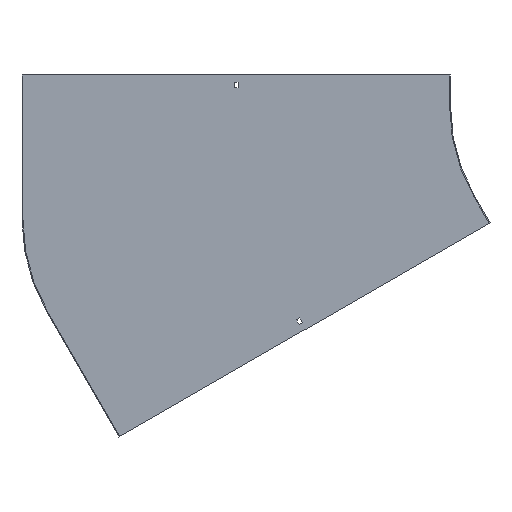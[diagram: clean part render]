
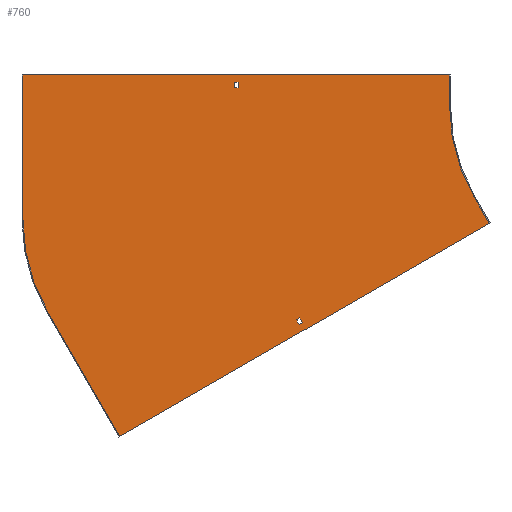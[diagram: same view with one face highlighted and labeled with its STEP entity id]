
A CAD part, front view. The second image highlights one B-rep face of the part: STEP entity #760.
In plain terms, the highlighted planar face has unit normal (0, -1, 0).
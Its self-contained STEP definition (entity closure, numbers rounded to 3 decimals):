
#29 = CARTESIAN_POINT ( 'NONE',  ( -653.25, -1.5, 38. ) ) ;
#33 = ORIENTED_EDGE ( 'NONE', *, *, #420, .T. ) ;
#45 = VECTOR ( 'NONE', #755, 1000. ) ;
#49 = DIRECTION ( 'NONE',  ( 0.866, 0., 0.5 ) ) ;
#51 = EDGE_CURVE ( 'NONE', #539, #389, #609, .T. ) ;
#61 = ORIENTED_EDGE ( 'NONE', *, *, #236, .F. ) ;
#65 = ORIENTED_EDGE ( 'NONE', *, *, #519, .F. ) ;
#80 = DIRECTION ( 'NONE',  ( 0.5, 0., -0.866 ) ) ;
#86 = CARTESIAN_POINT ( 'NONE',  ( 0., -1.5, 38. ) ) ;
#91 = CARTESIAN_POINT ( 'NONE',  ( -300., -1.5, 0. ) ) ;
#93 = ORIENTED_EDGE ( 'NONE', *, *, #217, .T. ) ;
#97 = EDGE_LOOP ( 'NONE', ( #683, #129, #556, #862, #525, #470, #623, #737 ) ) ;
#99 = DIRECTION ( 'NONE',  ( 0., 0., -1. ) ) ;
#109 = EDGE_CURVE ( 'NONE', #857, #410, #488, .T. ) ;
#117 = AXIS2_PLACEMENT_3D ( 'NONE', #490, #617, #290 ) ;
#129 = ORIENTED_EDGE ( 'NONE', *, *, #557, .F. ) ;
#132 = EDGE_CURVE ( 'NONE', #718, #288, #837, .T. ) ;
#143 = VERTEX_POINT ( 'NONE', #237 ) ;
#160 = CARTESIAN_POINT ( 'NONE',  ( -233.509, -1.5, -192.551 ) ) ;
#163 = EDGE_CURVE ( 'NONE', #663, #497, #469, .T. ) ;
#176 = DIRECTION ( 'NONE',  ( 0., 0., 1. ) ) ;
#202 = CARTESIAN_POINT ( 'NONE',  ( -560.102, -1.5, -323.375 ) ) ;
#203 = VECTOR ( 'NONE', #572, 1000. ) ;
#211 = VERTEX_POINT ( 'NONE', #309 ) ;
#217 = EDGE_CURVE ( 'NONE', #450, #586, #782, .T. ) ;
#225 = DIRECTION ( 'NONE',  ( 0.5, 0., -0.866 ) ) ;
#236 = EDGE_CURVE ( 'NONE', #143, #211, #633, .T. ) ;
#237 = CARTESIAN_POINT ( 'NONE',  ( -546.731, -1.5, -359.534 ) ) ;
#241 = EDGE_CURVE ( 'NONE', #636, #285, #626, .T. ) ;
#242 = CARTESIAN_POINT ( 'NONE',  ( 0., -1.5, 29. ) ) ;
#252 = CARTESIAN_POINT ( 'NONE',  ( -653.25, -1.5, 0. ) ) ;
#265 = VECTOR ( 'NONE', #625, 1000. ) ;
#283 = VECTOR ( 'NONE', #804, 1000. ) ;
#285 = VERTEX_POINT ( 'NONE', #641 ) ;
#288 = VERTEX_POINT ( 'NONE', #785 ) ;
#290 = DIRECTION ( 'NONE',  ( 0., 0., -1. ) ) ;
#295 = LINE ( 'NONE', #798, #422 ) ;
#296 = DIRECTION ( 'NONE',  ( 0., -1., 0. ) ) ;
#301 = CARTESIAN_POINT ( 'NONE',  ( -646.75, -1.5, 0. ) ) ;
#306 = CARTESIAN_POINT ( 'NONE',  ( -234.808, -1.5, -193.301 ) ) ;
#309 = CARTESIAN_POINT ( 'NONE',  ( -541.102, -1.5, -356.284 ) ) ;
#312 = DIRECTION ( 'NONE',  ( 0., 0., -1. ) ) ;
#327 = VECTOR ( 'NONE', #656, 1000. ) ;
#328 = LINE ( 'NONE', #86, #457 ) ;
#338 = CARTESIAN_POINT ( 'NONE',  ( -551.231, -1.5, -351.74 ) ) ;
#352 = LINE ( 'NONE', #202, #283 ) ;
#360 = DIRECTION ( 'NONE',  ( 1., 0., 0. ) ) ;
#361 = LINE ( 'NONE', #160, #45 ) ;
#362 = VERTEX_POINT ( 'NONE', #463 ) ;
#364 = VECTOR ( 'NONE', #743, 1000. ) ;
#368 = FACE_BOUND ( 'NONE', #687, .T. ) ;
#372 = ORIENTED_EDGE ( 'NONE', *, *, #132, .T. ) ;
#382 = DIRECTION ( 'NONE',  ( 0., 0., -1. ) ) ;
#389 = VERTEX_POINT ( 'NONE', #338 ) ;
#405 = ORIENTED_EDGE ( 'NONE', *, *, #608, .T. ) ;
#406 = CARTESIAN_POINT ( 'NONE',  ( -1000., -1.5, -187.564 ) ) ;
#407 = ORIENTED_EDGE ( 'NONE', *, *, #787, .F. ) ;
#410 = VERTEX_POINT ( 'NONE', #732 ) ;
#417 = CARTESIAN_POINT ( 'NONE',  ( -565.731, -1.5, -326.625 ) ) ;
#419 = DIRECTION ( 'NONE',  ( 0., 0., -1. ) ) ;
#420 = EDGE_CURVE ( 'NONE', #586, #718, #328, .T. ) ;
#422 = VECTOR ( 'NONE', #225, 1000. ) ;
#433 = CARTESIAN_POINT ( 'NONE',  ( -646.75, -1.5, 38. ) ) ;
#443 = CARTESIAN_POINT ( 'NONE',  ( 0., -1.5, 0. ) ) ;
#450 = VERTEX_POINT ( 'NONE', #679 ) ;
#457 = VECTOR ( 'NONE', #360, 1000. ) ;
#463 = CARTESIAN_POINT ( 'NONE',  ( -841.025, -1.5, -543.301 ) ) ;
#469 = CIRCLE ( 'NONE', #579, 300. ) ;
#470 = ORIENTED_EDGE ( 'NONE', *, *, #790, .F. ) ;
#485 = LINE ( 'NONE', #742, #855 ) ;
#486 = CARTESIAN_POINT ( 'NONE',  ( -259.808, -1.5, -150. ) ) ;
#488 = CIRCLE ( 'NONE', #117, 300. ) ;
#490 = CARTESIAN_POINT ( 'NONE',  ( -700., -1.5, -187.564 ) ) ;
#496 = CARTESIAN_POINT ( 'NONE',  ( -841.025, -1.5, -543.301 ) ) ;
#497 = VERTEX_POINT ( 'NONE', #486 ) ;
#507 = DIRECTION ( 'NONE',  ( -1., 0., 0. ) ) ;
#510 = PLANE ( 'NONE',  #584 ) ;
#512 = CARTESIAN_POINT ( 'NONE',  ( 19., -1.5, -32.909 ) ) ;
#519 = EDGE_CURVE ( 'NONE', #389, #143, #540, .T. ) ;
#525 = ORIENTED_EDGE ( 'NONE', *, *, #670, .F. ) ;
#528 = EDGE_LOOP ( 'NONE', ( #33, #372, #405, #93 ) ) ;
#539 = VERTEX_POINT ( 'NONE', #605 ) ;
#540 = LINE ( 'NONE', #417, #714 ) ;
#556 = ORIENTED_EDGE ( 'NONE', *, *, #109, .F. ) ;
#557 = EDGE_CURVE ( 'NONE', #410, #636, #724, .T. ) ;
#565 = CARTESIAN_POINT ( 'NONE',  ( 0., -1.5, 0. ) ) ;
#572 = DIRECTION ( 'NONE',  ( 1., 0., 0. ) ) ;
#573 = EDGE_CURVE ( 'NONE', #362, #857, #618, .T. ) ;
#579 = AXIS2_PLACEMENT_3D ( 'NONE', #443, #296, #312 ) ;
#584 = AXIS2_PLACEMENT_3D ( 'NONE', #565, #832, #99 ) ;
#586 = VERTEX_POINT ( 'NONE', #29 ) ;
#597 = VERTEX_POINT ( 'NONE', #306 ) ;
#605 = CARTESIAN_POINT ( 'NONE',  ( -545.602, -1.5, -348.49 ) ) ;
#608 = EDGE_CURVE ( 'NONE', #288, #450, #839, .T. ) ;
#609 = LINE ( 'NONE', #661, #364 ) ;
#617 = DIRECTION ( 'NONE',  ( 0., 1., 0. ) ) ;
#618 = LINE ( 'NONE', #496, #265 ) ;
#623 = ORIENTED_EDGE ( 'NONE', *, *, #163, .F. ) ;
#625 = DIRECTION ( 'NONE',  ( -0.5, 0., 0.866 ) ) ;
#626 = LINE ( 'NONE', #851, #203 ) ;
#633 = LINE ( 'NONE', #512, #639 ) ;
#636 = VERTEX_POINT ( 'NONE', #767 ) ;
#639 = VECTOR ( 'NONE', #49, 1000. ) ;
#641 = CARTESIAN_POINT ( 'NONE',  ( -300., -1.5, 50. ) ) ;
#656 = DIRECTION ( 'NONE',  ( 0., 0., 1. ) ) ;
#661 = CARTESIAN_POINT ( 'NONE',  ( 14.5, -1.5, -25.115 ) ) ;
#663 = VERTEX_POINT ( 'NONE', #91 ) ;
#670 = EDGE_CURVE ( 'NONE', #597, #362, #361, .T. ) ;
#671 = CARTESIAN_POINT ( 'NONE',  ( -959.808, -1.5, -337.564 ) ) ;
#679 = CARTESIAN_POINT ( 'NONE',  ( -653.25, -1.5, 29. ) ) ;
#683 = ORIENTED_EDGE ( 'NONE', *, *, #241, .F. ) ;
#687 = EDGE_LOOP ( 'NONE', ( #407, #61, #65, #858 ) ) ;
#714 = VECTOR ( 'NONE', #80, 1000. ) ;
#718 = VERTEX_POINT ( 'NONE', #433 ) ;
#724 = LINE ( 'NONE', #406, #327 ) ;
#732 = CARTESIAN_POINT ( 'NONE',  ( -1000., -1.5, -187.564 ) ) ;
#737 = ORIENTED_EDGE ( 'NONE', *, *, #854, .F. ) ;
#742 = CARTESIAN_POINT ( 'NONE',  ( -300., -1.5, 50. ) ) ;
#743 = DIRECTION ( 'NONE',  ( -0.866, 0., -0.5 ) ) ;
#749 = VECTOR ( 'NONE', #507, 1000. ) ;
#755 = DIRECTION ( 'NONE',  ( -0.866, 0., -0.5 ) ) ;
#760 = ADVANCED_FACE ( 'NONE', ( #368, #836, #841 ), #510, .T. ) ;
#767 = CARTESIAN_POINT ( 'NONE',  ( -1000., -1.5, 50. ) ) ;
#782 = LINE ( 'NONE', #252, #801 ) ;
#785 = CARTESIAN_POINT ( 'NONE',  ( -646.75, -1.5, 29. ) ) ;
#787 = EDGE_CURVE ( 'NONE', #211, #539, #352, .T. ) ;
#790 = EDGE_CURVE ( 'NONE', #497, #597, #295, .T. ) ;
#798 = CARTESIAN_POINT ( 'NONE',  ( -259.808, -1.5, -150. ) ) ;
#801 = VECTOR ( 'NONE', #176, 1000. ) ;
#804 = DIRECTION ( 'NONE',  ( -0.5, 0., 0.866 ) ) ;
#832 = DIRECTION ( 'NONE',  ( 0., -1., 0. ) ) ;
#836 = FACE_OUTER_BOUND ( 'NONE', #97, .T. ) ;
#837 = LINE ( 'NONE', #301, #848 ) ;
#839 = LINE ( 'NONE', #242, #749 ) ;
#841 = FACE_BOUND ( 'NONE', #528, .T. ) ;
#848 = VECTOR ( 'NONE', #382, 1000. ) ;
#851 = CARTESIAN_POINT ( 'NONE',  ( -1001.5, -1.5, 50. ) ) ;
#854 = EDGE_CURVE ( 'NONE', #285, #663, #485, .T. ) ;
#855 = VECTOR ( 'NONE', #419, 1000. ) ;
#857 = VERTEX_POINT ( 'NONE', #671 ) ;
#858 = ORIENTED_EDGE ( 'NONE', *, *, #51, .F. ) ;
#862 = ORIENTED_EDGE ( 'NONE', *, *, #573, .F. ) ;
